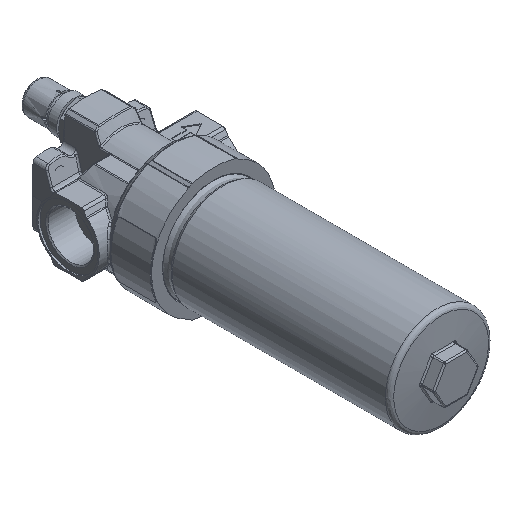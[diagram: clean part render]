
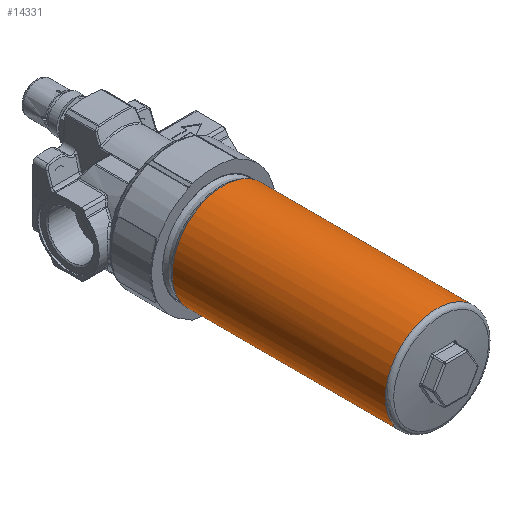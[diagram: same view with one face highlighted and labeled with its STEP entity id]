
A CAD part, isometric view. The second image highlights one B-rep face of the part: STEP entity #14331.
In plain terms, the highlighted free-form (B-spline) face has degree [2, 1] with [7, 2] control points.
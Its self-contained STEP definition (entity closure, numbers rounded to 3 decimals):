
#14221=CARTESIAN_POINT('V122',(-65.874,
   -157.502,-19.388));
#14222=VERTEX_POINT('V122',#14221);
#14236=CARTESIAN_POINT('E190',(-65.874,
   -157.502,-19.388));
#14237=CARTESIAN_POINT('E190',(-65.874,
   -157.502,-17.657));
#14238=CARTESIAN_POINT('E190',(-65.619,
   -157.502,-14.195));
#14239=CARTESIAN_POINT('E190',(-64.478,
   -157.502,-9.116));
#14240=CARTESIAN_POINT('E190',(-62.604,
   -157.502,-4.258));
#14241=CARTESIAN_POINT('E190',(-60.037,
   -157.502,0.272));
#14242=CARTESIAN_POINT('E190',(-56.833,
   -157.502,4.376));
#14243=CARTESIAN_POINT('E190',(-53.061,
   -157.502,7.965));
#14244=CARTESIAN_POINT('E190',(-48.803,
   -157.502,10.962));
#14245=CARTESIAN_POINT('E190',(-43.735,
   -157.502,13.511));
#14246=CARTESIAN_POINT('E190',(-37.856,
   -157.502,15.323));
#14247=CARTESIAN_POINT('E190',(-31.279,
   -157.502,16.062));
#14248=CARTESIAN_POINT('E190',(-24.678,
   -157.502,15.566));
#14249=CARTESIAN_POINT('E190',(-18.02,
   -157.502,13.781));
#14250=CARTESIAN_POINT('E190',(-11.589,
   -157.502,10.59));
#14251=CARTESIAN_POINT('E190',(-5.88,
   -157.502,6.059));
#14252=CARTESIAN_POINT('E190',(-1.313,
   -157.502,0.599));
#14253=CARTESIAN_POINT('E190',(2.023,
   -157.502,-5.504));
#14254=CARTESIAN_POINT('E190',(4.105,
   -157.502,-12.14));
#14255=CARTESIAN_POINT('E190',(4.844,
   -157.502,-18.989));
#14256=CARTESIAN_POINT('E190',(4.258,
   -157.502,-25.786));
#14257=CARTESIAN_POINT('E190',(2.412,
   -157.502,-32.286));
#14258=CARTESIAN_POINT('E190',(-0.634,
   -157.502,-38.318));
#14259=CARTESIAN_POINT('E190',(-4.724,
   -157.502,-43.604));
#14260=CARTESIAN_POINT('E190',(-9.673,
   -157.502,-47.985));
#14261=CARTESIAN_POINT('E190',(-15.279,
   -157.502,-51.345));
#14262=CARTESIAN_POINT('E190',(-21.406,
   -157.502,-53.619));
#14263=CARTESIAN_POINT('E190',(-28.734,
   -157.502,-54.883));
#14264=CARTESIAN_POINT('E190',(-37.098,
   -157.502,-54.449));
#14265=CARTESIAN_POINT('E190',(-45.051,
   -157.502,-51.872));
#14266=CARTESIAN_POINT('E190',(-51.42,
   -157.502,-48.095));
#14267=CARTESIAN_POINT('E190',(-56.366,
   -157.502,-43.769));
#14268=CARTESIAN_POINT('E190',(-60.473,
   -157.502,-38.536));
#14269=CARTESIAN_POINT('E190',(-63.554,
   -157.502,-32.55));
#14270=CARTESIAN_POINT('E190',(-65.448,
   -157.502,-26.09));
#14271=CARTESIAN_POINT('E190',(-65.874,
   -157.502,-21.621));
#14272=CARTESIAN_POINT('E190',(-65.874,
   -157.502,-19.388));
#14273=B_SPLINE_CURVE_WITH_KNOTS('E190',3,(#14236,#14237,#14238,
   #14239,#14240,#14241,#14242,#14243,#14244,#14245,#14246,#14247,
   #14248,#14249,#14250,#14251,#14252,#14253,#14254,#14255,#14256,
   #14257,#14258,#14259,#14260,#14261,#14262,#14263,#14264,#14265,
   #14266,#14267,#14268,#14269,#14270,#14271,#14272),.UNSPECIFIED.,
   .T.,.U.,(4,1,1,1,1,1,1,1,1,1,1,1,1,1,1,1,1,1,1,1,1,1,1,1,1,1,1,1,
   1,1,1,1,1,1,4),(2.0,3.067,4.134,
   5.201,6.269,7.336,
   8.403,9.47,10.537,
   11.891,13.246,14.6,
   15.954,17.477,19.,
   20.422,21.845,23.267,
   24.689,26.071,27.453,
   28.836,30.218,31.555,
   32.892,34.23,35.567,
   37.457,39.347,40.675,
   42.003,43.381,44.758,
   46.135,47.512),.UNSPECIFIED.);
#14274=EDGE_CURVE('E190',#14222,#14222,#14273,.T.);
#14281=CARTESIAN_POINT('F77',(-65.874,
   -11.371,-19.388));
#14282=CARTESIAN_POINT('F77',(-65.874,
   -11.371,-80.443));
#14283=CARTESIAN_POINT('F77',(-12.999,
   -11.371,-49.915));
#14284=CARTESIAN_POINT('F77',(39.876,-11.371,
   -19.388));
#14285=CARTESIAN_POINT('F77',(-12.999,
   -11.371,11.14));
#14286=CARTESIAN_POINT('F77',(-65.874,
   -11.371,41.667));
#14287=CARTESIAN_POINT('F77',(-65.874,
   -11.371,-19.388));
#14288=CARTESIAN_POINT('F77',(-65.874,
   -160.251,-19.388));
#14289=CARTESIAN_POINT('F77',(-65.874,
   -160.251,-80.443));
#14290=CARTESIAN_POINT('F77',(-12.999,
   -160.251,-49.915));
#14291=CARTESIAN_POINT('F77',(39.876,
   -160.251,-19.388));
#14292=CARTESIAN_POINT('F77',(-12.999,
   -160.251,11.14));
#14293=CARTESIAN_POINT('F77',(-65.874,
   -160.251,41.667));
#14294=CARTESIAN_POINT('F77',(-65.874,
   -160.251,-19.388));
#14302=(BOUNDED_SURFACE()B_SPLINE_SURFACE(2,1,((#14281,#14288),(
   #14282,#14289),(#14283,#14290),(#14284,#14291),(#14285,
   #14292),(#14286,#14293),(#14287,#14294)),.CYLINDRICAL_SURF.,
   .T.,.F.,.U.)B_SPLINE_SURFACE_WITH_KNOTS((3,2,2,3),(2,2),(0.0,
   0.82,1.64,2.461),(0.0,1.0),
   .UNSPECIFIED.)GEOMETRIC_REPRESENTATION_ITEM()
   RATIONAL_B_SPLINE_SURFACE(((1.0,1.0),(0.5,
   0.5),(1.0,1.0),(0.5,
   0.5),(1.0,1.0),(0.5,
   0.5),(1.0,1.0)))REPRESENTATION_ITEM('F77')SURFACE(
   ));
#14303=ORIENTED_EDGE('E190',*,*,#14274,.T.);
#14304=CARTESIAN_POINT('V123',(-65.874,
   -11.371,-19.388));
#14305=VERTEX_POINT('V123',#14304);
#14306=CARTESIAN_POINT('E194',(-65.874,
   -157.502,-19.388));
#14307=CARTESIAN_POINT('E194',(-65.874,
   -11.371,-19.388));
#14308=B_SPLINE_CURVE_WITH_KNOTS('E194',1,(#14306,#14307),
   .POLYLINE_FORM.,.F.,.U.,(2,2),(0.018,1.0),
   .UNSPECIFIED.);
#14309=EDGE_CURVE('E194',#14222,#14305,#14308,.T.);
#14310=ORIENTED_EDGE('E194',*,*,#14309,.T.);
#14311=CARTESIAN_POINT('E193',(-65.874,
   -11.371,-19.388));
#14312=CARTESIAN_POINT('E193',(-65.874,
   -11.371,-80.443));
#14313=CARTESIAN_POINT('E193',(-12.999,
   -11.371,-49.915));
#14314=CARTESIAN_POINT('E193',(39.876,
   -11.371,-19.388));
#14315=CARTESIAN_POINT('E193',(-12.999,
   -11.371,11.14));
#14316=CARTESIAN_POINT('E193',(-65.874,
   -11.371,41.667));
#14317=CARTESIAN_POINT('E193',(-65.874,
   -11.371,-19.388));
#14325=(BOUNDED_CURVE()B_SPLINE_CURVE(2,(#14311,#14312,#14313,
   #14314,#14315,#14316,#14317),.CIRCULAR_ARC.,.T.,.U.)
   B_SPLINE_CURVE_WITH_KNOTS((3,2,2,3),(0.0,0.82,
   1.64,2.461),.UNSPECIFIED.)CURVE()
   GEOMETRIC_REPRESENTATION_ITEM()RATIONAL_B_SPLINE_CURVE((1.0,
   0.5,1.0,0.5,1.0,0.5,1.0)
   )REPRESENTATION_ITEM('E193'));
#14326=EDGE_CURVE('E193',#14305,#14305,#14325,.T.);
#14327=ORIENTED_EDGE('E193',*,*,#14326,.T.);
#14328=ORIENTED_EDGE('E194',*,*,#14309,.F.);
#14329=EDGE_LOOP('F77',(#14303,#14310,#14327,#14328));
#14330=FACE_OUTER_BOUND('F77',#14329,.T.);
#14331=ADVANCED_FACE('F77',(#14330),#14302,.T.);
